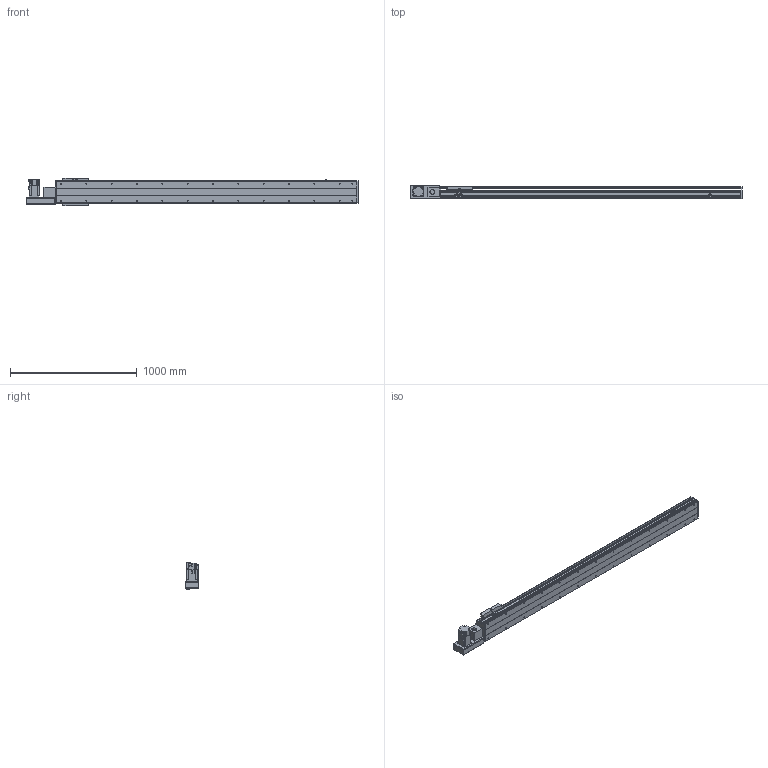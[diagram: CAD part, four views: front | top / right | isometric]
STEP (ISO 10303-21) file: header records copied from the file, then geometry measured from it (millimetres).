
FILE_DESCRIPTION(/* description */ ('STEP AP214'),/* implementation_level */ '2;1');
FILE_NAME(/* name */ 'PBS200-P40-S2000-L-T75-C1-N(0)',/* time_stamp */ '2022-06-11T07:50:06+02:00',/* author */ ('License CC BY-ND 4.0'),/* organization */ ('CADENAS'),/* preprocessor_version */ 'ST-DEVELOPER v18.102',/* originating_system */ 'PARTsolutions',/* authorisation */ ' ');
FILE_SCHEMA (('AUTOMOTIVE_DESIGN {1 0 10303 214 3 1 1}'));
Length unit declared in the file: millimetre
Products named in the file (7): PBS200-P40-S2000-L-T75-C1-N(0); PBS200_sensor; PBS200_plant; PBS200_sliser; T75-p1; PBS200T-L_motors; PBS200-S2000()_body
Assembly tree (8 placements, depth 2):
  PBS200-P40-S2000-L-T75-C1-N(0)
    PBS200_sensor  x3
    PBS200_plant
    PBS200_sliser
    T75-p1
    PBS200T-L_motors
    PBS200-S2000()_body
Bounding box: 2622 x 109 x 221 mm (x, y, z)
Volume: 17481570.7 mm3; surface area: 2804162.7 mm2
Topology: 8 solids, 8 shells, 950 faces, 2424 edges, 1578 vertices
Faces by surface type: plane 584, cylinder 308, cone 58
Full cylindrical faces by diameter (mm): 2.459 x6, 3.242 x4, 4.5 x6, 4.917 x4, 5 x6, 6 x7, 6.6 x8, 6.647 x30, 8 x6, 10 x4, 12 x8, 38 x2, 40 x1, 70 x1
Entity records: 25181 total; most frequent: DIRECTION 4447, CARTESIAN_POINT 4282, ORIENTED_EDGE 4042, EDGE_CURVE 2021, AXIS2_PLACEMENT_3D 1567, VERTEX_POINT 1402, LINE 1313, VECTOR 1313
